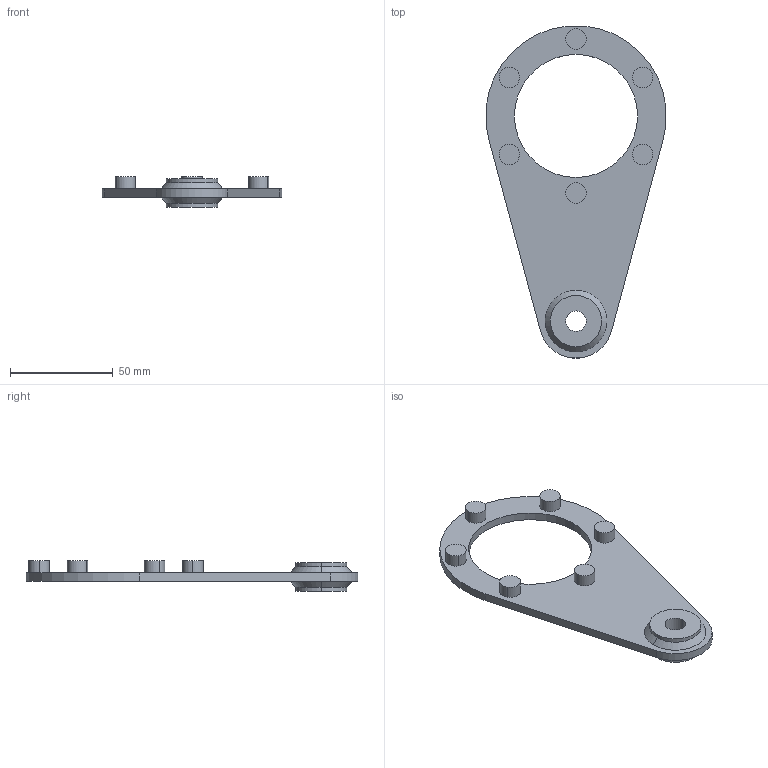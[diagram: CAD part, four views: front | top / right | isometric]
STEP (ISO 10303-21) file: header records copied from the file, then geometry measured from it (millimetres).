
FILE_DESCRIPTION(/* description */ (''),/* implementation_level */ '2;1');
FILE_NAME(/* name */ '8_BRACCIO DI REAZIONE NMRV040',/* time_stamp */ '2025-10-09T14:26:23+02:00',/* author */ (''),/* organization */ (''),/* preprocessor_version */ 'ST-DEVELOPER v19.2',/* originating_system */ 'Rhino 8.23',/* authorisation */ '');
FILE_SCHEMA (('CONFIG_CONTROL_DESIGN'));
Length unit declared in the file: millimetre
Products named in the file (2): Document; 40-100
Bounding box: 87.67 x 161.76 x 15 mm (x, y, z)
Volume: 35807.2 mm3; surface area: 18598.6 mm2
Topology: 1 solids, 1 shells, 38 faces, 86 edges, 58 vertices
Faces by surface type: cylinder 22, plane 12, bspline 4
Entity records: 1404 total; most frequent: CARTESIAN_POINT 362, ORIENTED_EDGE 172, DIRECTION 150, AXIS2_PLACEMENT_3D 92, EDGE_CURVE 86, VERTEX_POINT 58, TRIMMED_CURVE 54, CIRCLE 54
